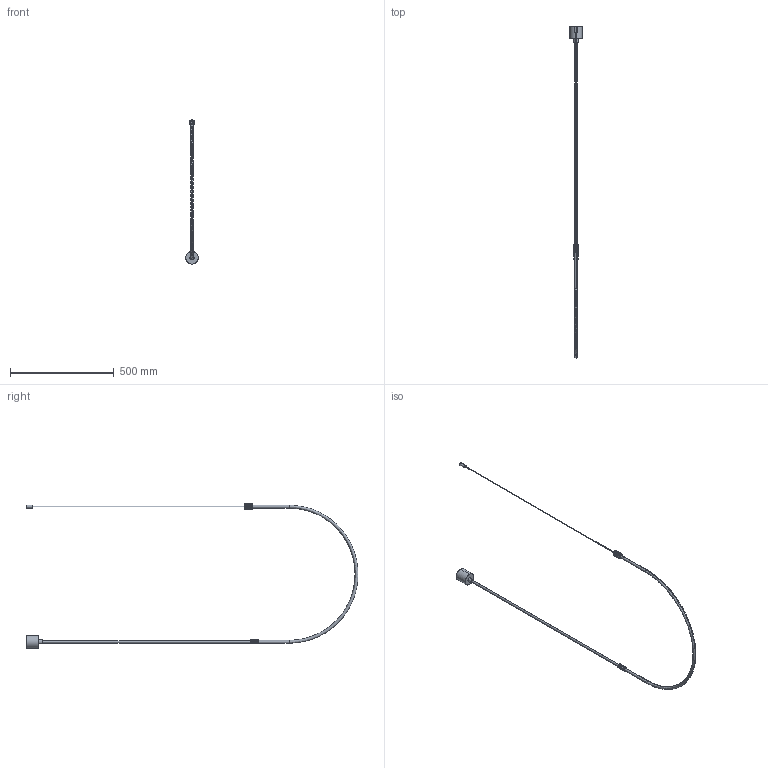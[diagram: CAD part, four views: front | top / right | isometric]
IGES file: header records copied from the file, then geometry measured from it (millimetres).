
Start section: SolidWorks IGES file using analytic representation for surfaces
Global section: file name: C:\Users\Agustin\Desktop\SEPT 2024\PULPO\archivos catalogo\CRAM_simple.IGS; native system: SolidWorks 2018; preprocessor: SolidWorks 2018; author: Agustin; date: 240509.163014; units: millimetre
Bounding box: 60 x 1596.54 x 693.04 mm (x, y, z)
Surface area: 137424.1 mm2 (no closed solid volume)
Topology: 0 solids, 0 shells, 236 faces, 1790 edges, 1790 vertices
Faces by surface type: bspline 169, revolution 67
